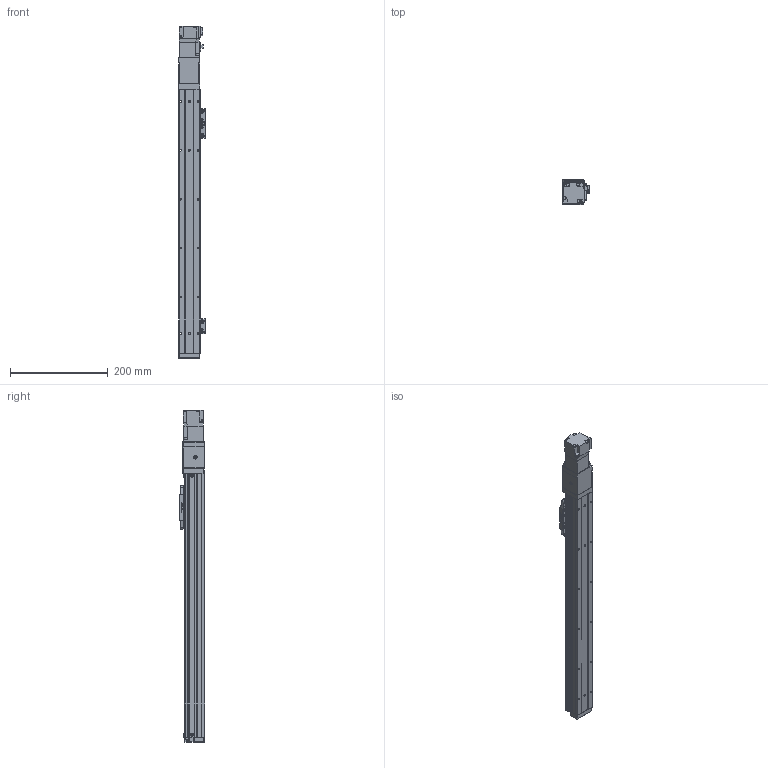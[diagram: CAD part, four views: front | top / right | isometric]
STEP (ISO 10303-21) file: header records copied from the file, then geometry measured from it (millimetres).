
FILE_DESCRIPTION (( 'STEP AP203' ), '1' );
FILE_NAME ('BTH40-400-BC-M05-C4.step', '2021-12-16T00:11:52', ( '微软用户' ), ( '微软中国' ), 'SwSTEP 2.0', 'SolidWorks 2020', '' );
FILE_SCHEMA (( 'CONFIG_CONTROL_DESIGN' ));
Length unit declared in the file: millimetre
Products named in the file (19): BTH50-024; HG-KR13; BTH40-003; GBT 70.1-M3℅6; GBT 70.3-M3℅6; BTH40-006; GBT96.1-2002 3×0.8; BTH40-017; BTH-M3X5X6; BTH40-022; BTH40-005-1; GBT70.1-2000 M3×16; GBT 70.1-M2.5×6; BTH40-400-BC-M05-C4; BTH50-028; BTH40-004; BTH50-023; BTH40-013; BTH40-001-50_BTH40-001-400
Assembly tree (49 placements, depth 2):
  BTH40-400-BC-M05-C4
    BTH40-001-50_BTH40-001-400
    BTH40-003
    BTH40-006
    BTH-M3X5X6  x10
    GBT70.1-2000 M3×16  x4
    BTH50-028  x2
    BTH50-023  x3
    BTH50-024  x3
    GBT 70.1-M3℅6  x6
    GBT96.1-2002 3×0.8  x6
    BTH40-022
    GBT 70.1-M2.5×6  x2
    BTH40-004
    BTH40-013
    HG-KR13
    GBT 70.3-M3℅6  x4
    BTH40-017
    BTH40-005-1
Bounding box: 55.2 x 52 x 679.4 mm (x, y, z)
Volume: 1065797.3 mm3; surface area: 206350.2 mm2
Topology: 51 solids, 51 shells, 1958 faces, 4609 edges, 2852 vertices
Faces by surface type: plane 1088, cylinder 461, cone 257, torus 132, bspline 16, sphere 4
Entity records: 37687 total; most frequent: CARTESIAN_POINT 6814, DIRECTION 5916, ORIENTED_EDGE 5680, EDGE_CURVE 2840, VECTOR 2010, LINE 2010, AXIS2_PLACEMENT_3D 1953, VERTEX_POINT 1783
